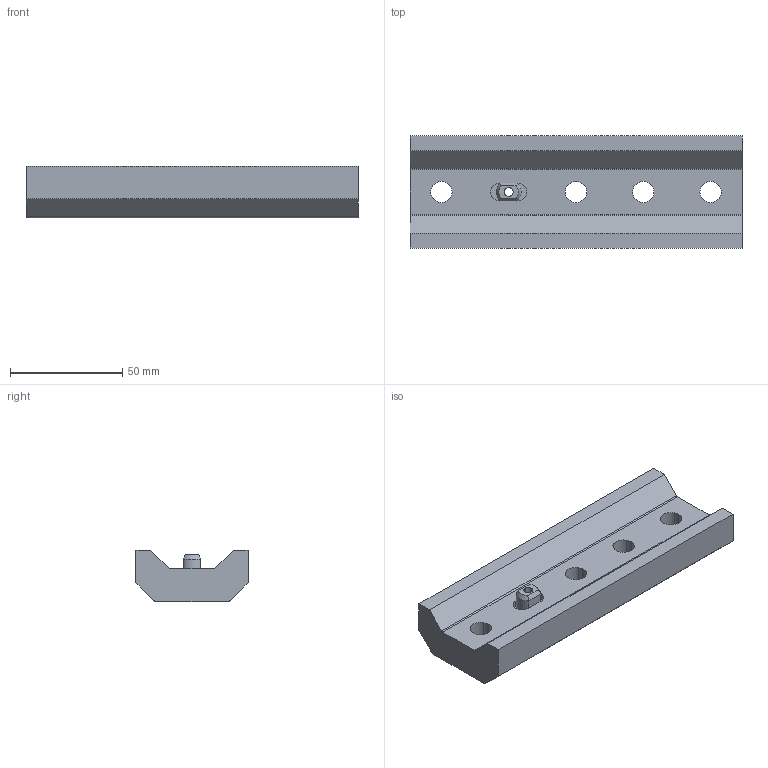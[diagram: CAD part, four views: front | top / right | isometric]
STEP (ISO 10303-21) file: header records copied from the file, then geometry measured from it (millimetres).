
FILE_DESCRIPTION(('STEP AP214'),'1');
FILE_NAME('EGT238_1702502_ADAPTER_SW80_SW50.CATPart.stp','2015-09-14T13:15:05',('3D-Tool'),(' '),'Spatial InterOp 3D',' ',' ');
FILE_SCHEMA(('automotive_design'));
Length unit declared in the file: millimetre
Products named in the file (2): EGT238_1702502_ADAPTER_SW80_SW50|EGT_238_5252088_Verbinder_SW80_zu_SW50_spl.1\Adapter SW80 zu SW50|Solid.1; EGT238_1702502_ADAPTER_SW80_SW50|EGT_212_5252162_Zentrierstift.1\Zentrierstift Vario-Handlingsystem|Solid.2
Bounding box: 148 x 50 x 23 mm (x, y, z)
Volume: 120909.3 mm3; surface area: 24925.4 mm2
Topology: 2 solids, 2 shells, 60 faces, 158 edges, 104 vertices
Faces by surface type: cylinder 36, plane 22, cone 2
Entity records: 2444 total; most frequent: DIRECTION 352, CARTESIAN_POINT 340, ORIENTED_EDGE 316, EDGE_CURVE 158, AXIS2_PLACEMENT_3D 136, VERTEX_POINT 104, LINE 80, VECTOR 80
